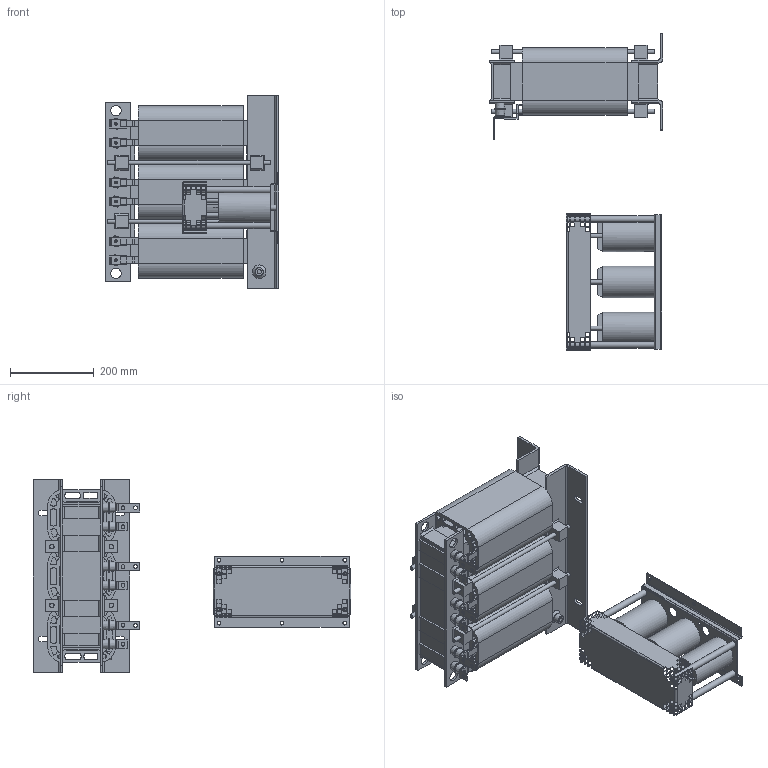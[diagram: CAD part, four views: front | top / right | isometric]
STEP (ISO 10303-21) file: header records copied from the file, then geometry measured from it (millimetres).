
FILE_DESCRIPTION(/* description */ ('raw material description'),/* implementation_level */ '2;1');
FILE_NAME(/* name */ 'C:\Users\Oliver.Volic\Desktop\FN5040HV-115-99.stp',/* time_stamp */ '2020-02-17T12:17:15+01:00',/* author */ ('Oliver.Volic'),/* organization */ ('Schaffner EMV AG'),/* preprocessor_version */ 'ST-DEVELOPER v16.5',/* originating_system */ 'Autodesk Inventor 2017',/* authorisation */ '');
FILE_SCHEMA (('CONFIG_CONTROL_DESIGN'));
Products named in the file (1): FN5040HV-115-99
Bounding box: 412.5 x 756.57 x 460 mm (x, y, z)
Volume: 17998266.4 mm3; surface area: 2760847.2 mm2
Topology: 6 solids, 12 shells, 1786 faces, 5245 edges, 3442 vertices
Faces by surface type: plane 1245, cylinder 507, cone 34
Full cylindrical faces by diameter (mm): 4.917 x12, 6.3 x6, 6.647 x8, 9 x21, 10 x15, 11 x8, 12 x3, 13 x9, 15 x4, 20 x1, 25 x8, 75 x3
Entity records: 60605 total; most frequent: CARTESIAN_POINT 10232, ORIENTED_EDGE 10140, DIRECTION 9715, EDGE_CURVE 5058, LINE 3975, VECTOR 3975, VERTEX_POINT 3387, AXIS2_PLACEMENT_3D 2870
